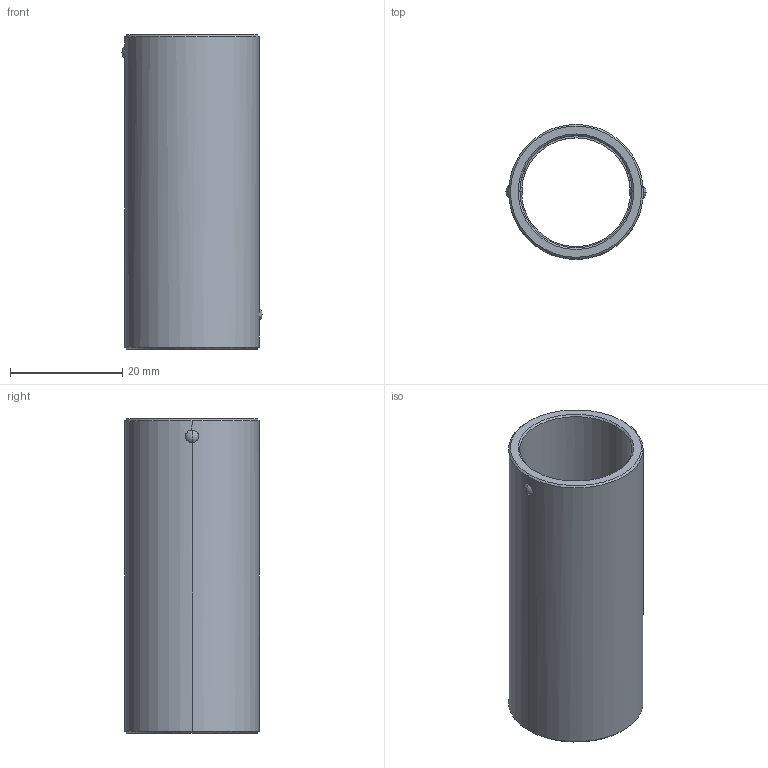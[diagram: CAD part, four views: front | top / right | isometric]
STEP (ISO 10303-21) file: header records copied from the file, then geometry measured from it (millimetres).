
FILE_DESCRIPTION(('CATIA V5 STEP Exchange'),'2;1');
FILE_NAME('C:\Users\Utente\Desktop\IO LAVORO\3D X SITO CF\X SITO\730\730-19x56.stp','2021-01-07T16:18:09+00:00',('none'),('none'),'CATIA Version 5 Release 20 GA (IN-10)','CATIA V5 STEP AP203','none');
FILE_SCHEMA(('CONFIG_CONTROL_DESIGN'));
Length unit declared in the file: millimetre
Products named in the file (1): 730-19x56
Bounding box: 25 x 24 x 56 mm (x, y, z)
Volume: 7435.7 mm3; surface area: 8151.6 mm2
Topology: 1 solids, 1 shells, 44 faces, 120 edges, 76 vertices
Faces by surface type: cylinder 18, cone 10, plane 8, sphere 8
Entity records: 1743 total; most frequent: CARTESIAN_POINT 680, ORIENTED_EDGE 240, DIRECTION 159, EDGE_CURVE 120, AXIS2_PLACEMENT_3D 78, VERTEX_POINT 76, B_SPLINE_CURVE_WITH_KNOTS 49, EDGE_LOOP 48
